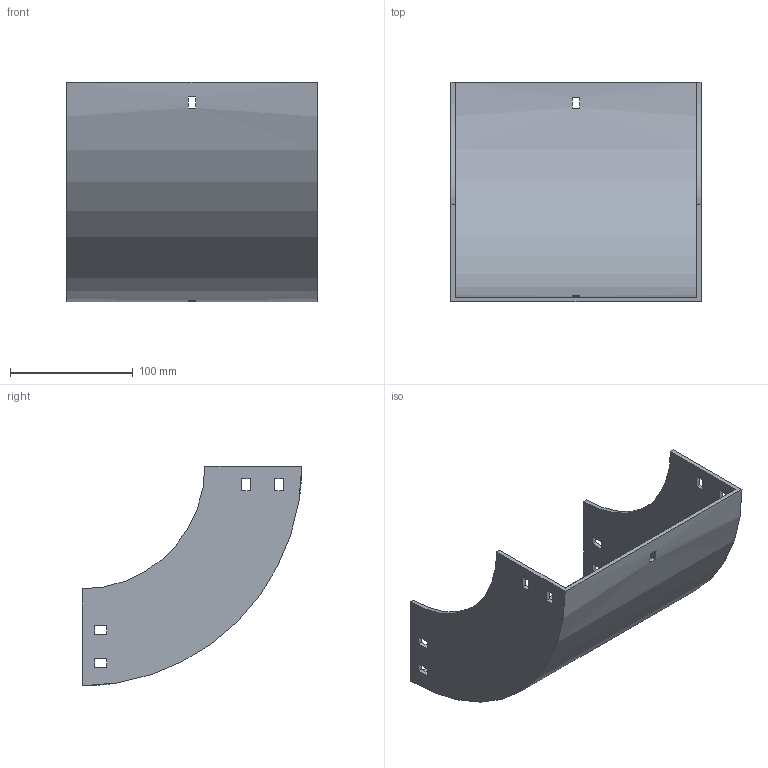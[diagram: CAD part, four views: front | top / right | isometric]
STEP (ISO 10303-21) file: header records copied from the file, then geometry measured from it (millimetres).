
FILE_DESCRIPTION (( 'STEP AP214' ), '1' );
FILE_NAME ('30B1C200.step', '2025-02-21T09:50:51', ( '' ), ( '' ), 'SwSTEP 2.0', 'SolidWorks 2023', '' );
FILE_SCHEMA (( 'AUTOMOTIVE_DESIGN' ));
Length unit declared in the file: millimetre
Products named in the file (1): 30B1C200
Bounding box: 204 x 179 x 179 mm (x, y, z)
Volume: 310778.5 mm3; surface area: 182361.5 mm2
Topology: 1 solids, 1 shells, 50 faces, 144 edges, 96 vertices
Faces by surface type: plane 46, cylinder 4
Entity records: 1687 total; most frequent: CARTESIAN_POINT 291, ORIENTED_EDGE 288, DIRECTION 262, EDGE_CURVE 144, LINE 128, VECTOR 128, VERTEX_POINT 96, EDGE_LOOP 70
